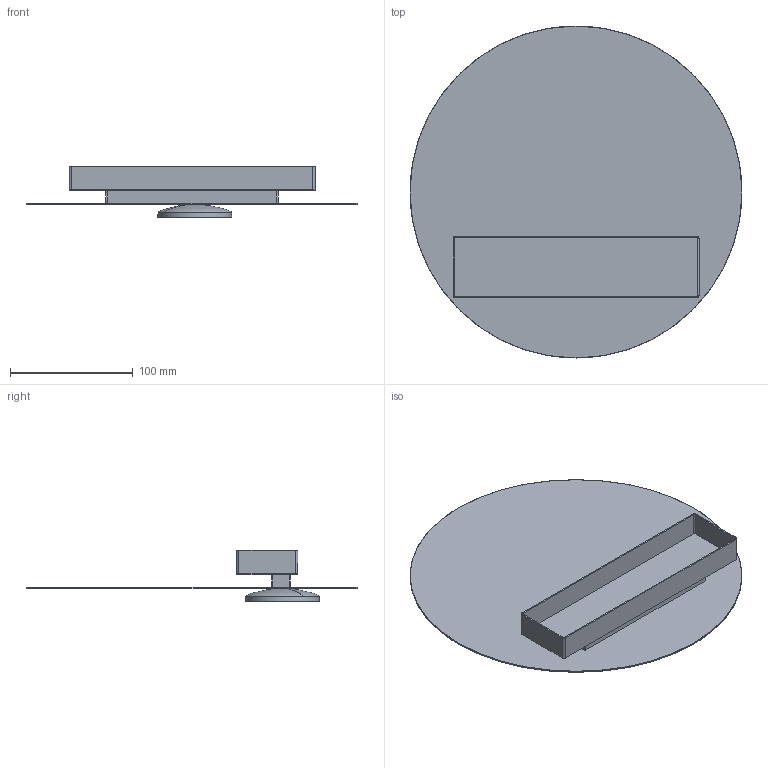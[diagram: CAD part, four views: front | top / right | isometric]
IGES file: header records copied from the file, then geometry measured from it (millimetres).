
Global section: file name: C:\Marek\TuXka\Liczy siX sXowo\_Modelowanie SIGMA\ARGON\paczka\Argon 1 koXo\ARGON 1 KOXO.igs; native system: HarmonyWare Translators; preprocessor: HarmonyWare IGES v1.7.11; date: 20220105.085253; units: centimetre
Bounding box: 270 x 270 x 41.86 mm (x, y, z)
Surface area: 169405.1 mm2 (no closed solid volume)
Topology: 0 solids, 0 shells, 38 faces, 330 edges, 320 vertices
Faces by surface type: bspline 38
